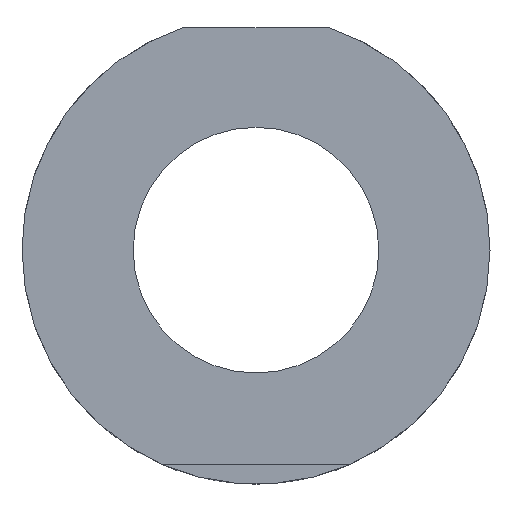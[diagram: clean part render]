
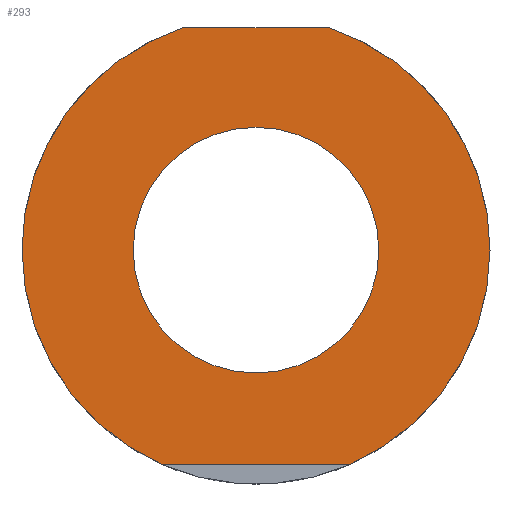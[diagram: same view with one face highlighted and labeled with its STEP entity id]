
A CAD part, front view. The second image highlights one B-rep face of the part: STEP entity #293.
In plain terms, the highlighted planar face has unit normal (0, -1, 0).
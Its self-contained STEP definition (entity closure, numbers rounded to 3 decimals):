
#3 = EDGE_LOOP ( 'NONE', ( #673, #674, #675, #676, #677, #678 ) ) ;
#59 = EDGE_LOOP ( 'NONE', ( #671, #672 ) ) ;
#68 = CIRCLE ( 'NONE', #383, 3.15 ) ;
#79 = LINE ( 'NONE', #738, #80 ) ;
#80 = VECTOR ( 'NONE', #736, 1000. ) ;
#91 = CIRCLE ( 'NONE', #374, 6. ) ;
#99 = LINE ( 'NONE', #317, #117 ) ;
#117 = VECTOR ( 'NONE', #312, 1000. ) ;
#119 = CIRCLE ( 'NONE', #420, 3.15 ) ;
#127 = CIRCLE ( 'NONE', #337, 6. ) ;
#165 = VERTEX_POINT ( 'NONE', #166 ) ;
#166 = CARTESIAN_POINT ( 'NONE',  ( 6., 0., 0. ) ) ;
#167 = VERTEX_POINT ( 'NONE', #226 ) ;
#179 = VERTEX_POINT ( 'NONE', #217 ) ;
#181 = VERTEX_POINT ( 'NONE', #195 ) ;
#188 = CARTESIAN_POINT ( 'NONE',  ( -6., 0., 0. ) ) ;
#189 = CARTESIAN_POINT ( 'NONE',  ( 1.873, 0., 5.7 ) ) ;
#195 = CARTESIAN_POINT ( 'NONE',  ( 3.15, 0., 0. ) ) ;
#201 = VERTEX_POINT ( 'NONE', #212 ) ;
#212 = CARTESIAN_POINT ( 'NONE',  ( -1.873, 0., 5.7 ) ) ;
#213 = VERTEX_POINT ( 'NONE', #237 ) ;
#217 = CARTESIAN_POINT ( 'NONE',  ( -2.398, 0., -5.5 ) ) ;
#222 = VERTEX_POINT ( 'NONE', #188 ) ;
#225 = VERTEX_POINT ( 'NONE', #189 ) ;
#226 = CARTESIAN_POINT ( 'NONE',  ( -3.15, 0., 0. ) ) ;
#237 = CARTESIAN_POINT ( 'NONE',  ( 2.398, 0., -5.5 ) ) ;
#252 = CIRCLE ( 'NONE', #327, 6. ) ;
#253 = CIRCLE ( 'NONE', #393, 6. ) ;
#293 = ADVANCED_FACE ( 'NONE', ( #491, #525 ), #615, .F. ) ;
#299 = DIRECTION ( 'NONE',  ( 1., 0., 0. ) ) ;
#300 = DIRECTION ( 'NONE',  ( 0., -1., 0. ) ) ;
#302 = CARTESIAN_POINT ( 'NONE',  ( 0., 0., 0. ) ) ;
#312 = DIRECTION ( 'NONE',  ( 1., 0., 0. ) ) ;
#317 = CARTESIAN_POINT ( 'NONE',  ( 0., 0., -5.5 ) ) ;
#320 = AXIS2_PLACEMENT_3D ( 'NONE', #618, #603, #610 ) ;
#327 = AXIS2_PLACEMENT_3D ( 'NONE', #651, #648, #645 ) ;
#332 = EDGE_CURVE ( 'NONE', #165, #225, #252, .T. ) ;
#337 = AXIS2_PLACEMENT_3D ( 'NONE', #302, #300, #299 ) ;
#347 = EDGE_CURVE ( 'NONE', #222, #179, #253, .T. ) ;
#353 = EDGE_CURVE ( 'NONE', #181, #167, #68, .T. ) ;
#367 = EDGE_CURVE ( 'NONE', #201, #225, #79, .T. ) ;
#374 = AXIS2_PLACEMENT_3D ( 'NONE', #735, #720, #719 ) ;
#380 = EDGE_CURVE ( 'NONE', #213, #165, #91, .T. ) ;
#383 = AXIS2_PLACEMENT_3D ( 'NONE', #608, #759, #760 ) ;
#393 = AXIS2_PLACEMENT_3D ( 'NONE', #579, #722, #757 ) ;
#420 = AXIS2_PLACEMENT_3D ( 'NONE', #508, #497, #496 ) ;
#422 = EDGE_CURVE ( 'NONE', #167, #181, #119, .T. ) ;
#423 = EDGE_CURVE ( 'NONE', #179, #213, #99, .T. ) ;
#436 = EDGE_CURVE ( 'NONE', #201, #222, #127, .T. ) ;
#491 = FACE_BOUND ( 'NONE', #59, .T. ) ;
#496 = DIRECTION ( 'NONE',  ( 1., 0., 0. ) ) ;
#497 = DIRECTION ( 'NONE',  ( 0., -1., 0. ) ) ;
#508 = CARTESIAN_POINT ( 'NONE',  ( 0., 0., 0. ) ) ;
#525 = FACE_OUTER_BOUND ( 'NONE', #3, .T. ) ;
#579 = CARTESIAN_POINT ( 'NONE',  ( 0., 0., 0. ) ) ;
#603 = DIRECTION ( 'NONE',  ( 0., 1., 0. ) ) ;
#608 = CARTESIAN_POINT ( 'NONE',  ( 0., 0., 0. ) ) ;
#610 = DIRECTION ( 'NONE',  ( -1., 0., 0. ) ) ;
#615 = PLANE ( 'NONE',  #320 ) ;
#618 = CARTESIAN_POINT ( 'NONE',  ( 0., 0., 3.15 ) ) ;
#645 = DIRECTION ( 'NONE',  ( 1., 0., 0. ) ) ;
#648 = DIRECTION ( 'NONE',  ( 0., -1., 0. ) ) ;
#651 = CARTESIAN_POINT ( 'NONE',  ( 0., 0., 0. ) ) ;
#671 = ORIENTED_EDGE ( 'NONE', *, *, #353, .F. ) ;
#672 = ORIENTED_EDGE ( 'NONE', *, *, #422, .F. ) ;
#673 = ORIENTED_EDGE ( 'NONE', *, *, #436, .T. ) ;
#674 = ORIENTED_EDGE ( 'NONE', *, *, #347, .T. ) ;
#675 = ORIENTED_EDGE ( 'NONE', *, *, #423, .T. ) ;
#676 = ORIENTED_EDGE ( 'NONE', *, *, #380, .T. ) ;
#677 = ORIENTED_EDGE ( 'NONE', *, *, #332, .T. ) ;
#678 = ORIENTED_EDGE ( 'NONE', *, *, #367, .F. ) ;
#719 = DIRECTION ( 'NONE',  ( 1., 0., 0. ) ) ;
#720 = DIRECTION ( 'NONE',  ( 0., -1., 0. ) ) ;
#722 = DIRECTION ( 'NONE',  ( 0., -1., 0. ) ) ;
#735 = CARTESIAN_POINT ( 'NONE',  ( 0., 0., 0. ) ) ;
#736 = DIRECTION ( 'NONE',  ( 1., 0., 0. ) ) ;
#738 = CARTESIAN_POINT ( 'NONE',  ( -3., 0., 5.7 ) ) ;
#757 = DIRECTION ( 'NONE',  ( 1., 0., 0. ) ) ;
#759 = DIRECTION ( 'NONE',  ( 0., -1., 0. ) ) ;
#760 = DIRECTION ( 'NONE',  ( 1., 0., 0. ) ) ;
